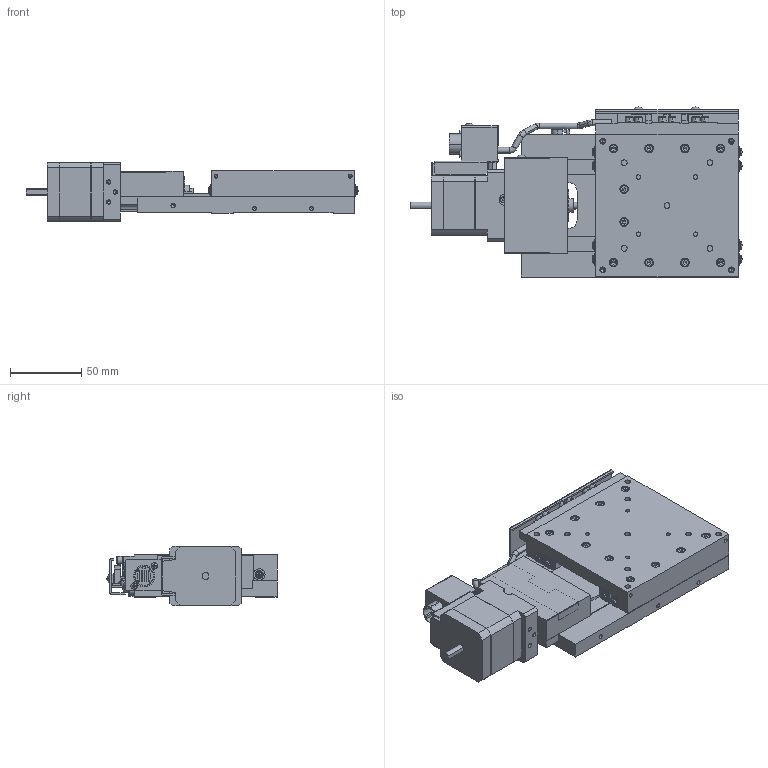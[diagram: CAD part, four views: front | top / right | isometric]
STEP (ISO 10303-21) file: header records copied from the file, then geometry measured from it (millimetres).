
FILE_DESCRIPTION (( 'STEP AP203' ), '1' );
FILE_NAME ('XA10A-R102-R.STEP', '2019-03-06T08:33:53', ( '' ), ( '' ), 'SwSTEP 2.0', 'SolidWorks 2018', '' );
FILE_SCHEMA (( 'CONFIG_CONTROL_DESIGN' ));
Length unit declared in the file: millimetre
Products named in the file (3): table; base; XA10A-R102-R
Assembly tree (2 placements, depth 2):
  XA10A-R102-R
    table
    base
Bounding box: 232.48 x 119.09 x 42 mm (x, y, z)
Volume: 470253.6 mm3; surface area: 127091.5 mm2
Topology: 2 solids, 2 shells, 2021 faces, 5018 edges, 3073 vertices
Faces by surface type: plane 1213, cylinder 480, cone 260, torus 34, sphere 34
Entity records: 60178 total; most frequent: CARTESIAN_POINT 10840, DIRECTION 10695, ORIENTED_EDGE 9876, EDGE_CURVE 4938, AXIS2_PLACEMENT_3D 3804, LINE 3087, VECTOR 3087, VERTEX_POINT 3073
